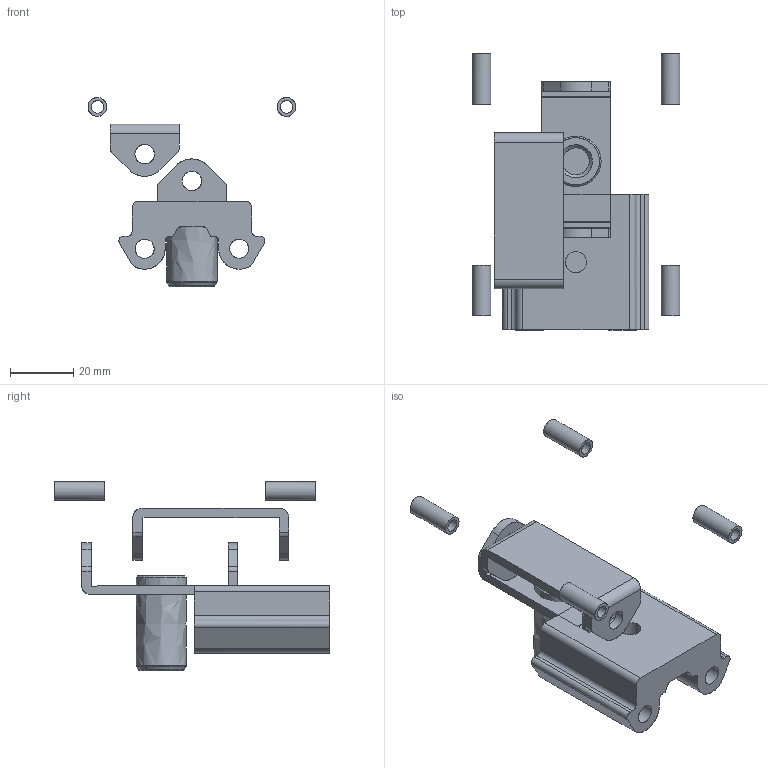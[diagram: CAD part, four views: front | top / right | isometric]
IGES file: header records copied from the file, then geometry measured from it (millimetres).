
Start section: ZWSOFT
Global section: file name: TW16VAD.igs; native system: ZW3D; preprocessor: 1.0; author: ZW3D; organization: ZWSOFT; date: 150311.144830; units: millimetre
Bounding box: 66 x 87.5 x 60 mm (x, y, z)
Surface area: 20775.7 mm2 (no closed solid volume)
Topology: 0 solids, 0 shells, 126 faces, 760 edges, 710 vertices
Faces by surface type: bspline 126
